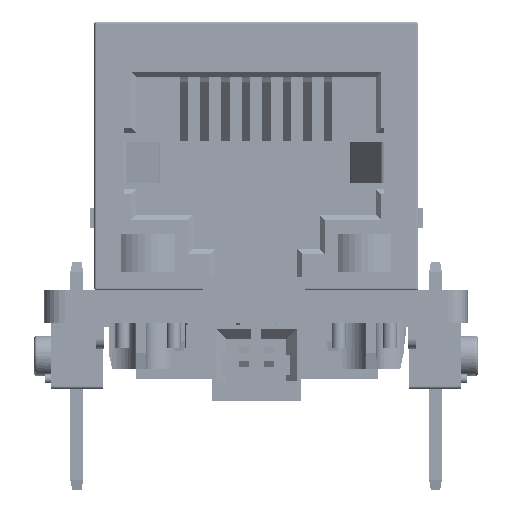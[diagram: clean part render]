
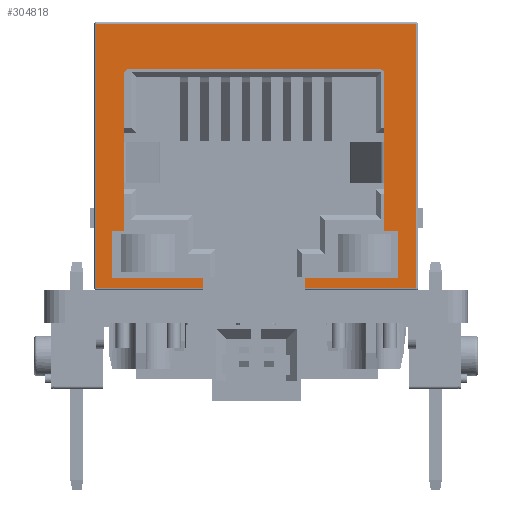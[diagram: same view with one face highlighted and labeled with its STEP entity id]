
A CAD part, front view. The second image highlights one B-rep face of the part: STEP entity #304818.
In plain terms, the highlighted planar face has unit normal (0, -1, 0) as drawn and (0, 0, 1) by its records, which use the part's own axes.
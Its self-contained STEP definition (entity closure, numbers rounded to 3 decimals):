
#296512=DIRECTION('',(1.,0.,0.));
#296513=VECTOR('',#296512,5.49);
#296514=CARTESIAN_POINT('',(2.43,-6.45,0.15));
#296515=LINE('',#296514,#296513);
#296665=DIRECTION('',(1.,0.,0.));
#296666=VECTOR('',#296665,5.29);
#296667=CARTESIAN_POINT('',(-7.92,-6.45,0.15));
#296668=LINE('',#296667,#296666);
#296687=DIRECTION('',(0.,-1.,0.));
#296688=VECTOR('',#296687,13.1);
#296689=CARTESIAN_POINT('',(-7.92,6.65,0.15));
#296690=LINE('',#296689,#296688);
#296694=DIRECTION('',(-1.,0.,0.));
#296695=VECTOR('',#296694,15.84);
#296696=CARTESIAN_POINT('',(7.92,6.65,0.15));
#296697=LINE('',#296696,#296695);
#296701=DIRECTION('',(0.,1.,0.));
#296702=VECTOR('',#296701,13.1);
#296703=CARTESIAN_POINT('',(7.92,-6.45,0.15));
#296704=LINE('',#296703,#296702);
#296708=DIRECTION('',(0.,-1.,0.));
#296709=VECTOR('',#296708,0.51);
#296710=CARTESIAN_POINT('',(2.43,-5.94,0.15));
#296711=LINE('',#296710,#296709);
#296715=DIRECTION('',(-1.,0.,0.));
#296716=VECTOR('',#296715,4.62);
#296717=CARTESIAN_POINT('',(7.05,-5.94,0.15));
#296718=LINE('',#296717,#296716);
#296722=DIRECTION('',(0.,-1.,0.));
#296723=VECTOR('',#296722,2.35);
#296724=CARTESIAN_POINT('',(7.05,-3.59,0.15));
#296725=LINE('',#296724,#296723);
#296729=DIRECTION('',(1.,0.,0.));
#296730=VECTOR('',#296729,0.7);
#296731=CARTESIAN_POINT('',(6.35,-3.59,0.15));
#296732=LINE('',#296731,#296730);
#296736=CARTESIAN_POINT('',(6.1,4.17,0.15));
#296737=DIRECTION('',(0.,0.,-1.));
#296738=DIRECTION('',(0.,1.,0.));
#296739=AXIS2_PLACEMENT_3D('',#296736,#296737,#296738);
#296744=DIRECTION('',(1.,0.,0.));
#296745=VECTOR('',#296744,12.4);
#296746=CARTESIAN_POINT('',(-6.3,4.42,0.15));
#296747=LINE('',#296746,#296745);
#296751=CARTESIAN_POINT('',(-6.3,4.17,0.15));
#296752=DIRECTION('',(0.,0.,-1.));
#296753=DIRECTION('',(-1.,0.,0.));
#296754=AXIS2_PLACEMENT_3D('',#296751,#296752,#296753);
#296759=DIRECTION('',(0.,1.,0.));
#296760=VECTOR('',#296759,3.38);
#296761=CARTESIAN_POINT('',(-6.55,0.79,0.15));
#296762=LINE('',#296761,#296760);
#296766=DIRECTION('',(-1.,0.,0.));
#296767=VECTOR('',#296766,0.009);
#296768=CARTESIAN_POINT('',(-6.541,0.79,0.15));
#296769=LINE('',#296768,#296767);
#296773=DIRECTION('',(0.,1.,0.));
#296774=VECTOR('',#296773,2.);
#296775=CARTESIAN_POINT('',(-6.541,-1.21,0.15));
#296776=LINE('',#296775,#296774);
#296780=DIRECTION('',(1.,0.,0.));
#296781=VECTOR('',#296780,0.009);
#296782=CARTESIAN_POINT('',(-6.55,-1.21,0.15));
#296783=LINE('',#296782,#296781);
#296787=DIRECTION('',(0.,1.,0.));
#296788=VECTOR('',#296787,2.38);
#296789=CARTESIAN_POINT('',(-6.55,-3.59,0.15));
#296790=LINE('',#296789,#296788);
#296794=DIRECTION('',(1.,0.,0.));
#296795=VECTOR('',#296794,0.6);
#296796=CARTESIAN_POINT('',(-7.15,-3.59,0.15));
#296797=LINE('',#296796,#296795);
#296801=DIRECTION('',(0.,1.,0.));
#296802=VECTOR('',#296801,2.35);
#296803=CARTESIAN_POINT('',(-7.15,-5.94,0.15));
#296804=LINE('',#296803,#296802);
#296808=DIRECTION('',(-1.,0.,0.));
#296809=VECTOR('',#296808,4.52);
#296810=CARTESIAN_POINT('',(-2.63,-5.94,0.15));
#296811=LINE('',#296810,#296809);
#296815=DIRECTION('',(0.,1.,0.));
#296816=VECTOR('',#296815,0.51);
#296817=CARTESIAN_POINT('',(-2.63,-6.45,0.15));
#296818=LINE('',#296817,#296816);
#297746=DIRECTION('',(0.,-1.,0.));
#297747=VECTOR('',#297746,7.76);
#297748=CARTESIAN_POINT('',(6.35,4.17,0.15));
#297749=LINE('',#297748,#297747);
#301675=CARTESIAN_POINT('',(-2.63,-5.94,0.15));
#301676=CARTESIAN_POINT('',(-7.15,-5.94,0.15));
#301677=VERTEX_POINT('',#301675);
#301678=VERTEX_POINT('',#301676);
#301679=CARTESIAN_POINT('',(-7.15,-3.59,0.15));
#301680=VERTEX_POINT('',#301679);
#301681=CARTESIAN_POINT('',(-6.55,-3.59,0.15));
#301682=VERTEX_POINT('',#301681);
#301683=CARTESIAN_POINT('',(-6.55,-1.21,0.15));
#301684=VERTEX_POINT('',#301683);
#301685=CARTESIAN_POINT('',(-6.55,0.79,0.15));
#301686=CARTESIAN_POINT('',(-6.55,4.17,0.15));
#301687=VERTEX_POINT('',#301685);
#301688=VERTEX_POINT('',#301686);
#301689=CARTESIAN_POINT('',(-6.3,4.42,0.15));
#301690=VERTEX_POINT('',#301689);
#301691=CARTESIAN_POINT('',(6.1,4.42,0.15));
#301692=VERTEX_POINT('',#301691);
#301693=CARTESIAN_POINT('',(6.35,4.17,0.15));
#301694=VERTEX_POINT('',#301693);
#301695=CARTESIAN_POINT('',(6.35,-3.59,0.15));
#301696=CARTESIAN_POINT('',(7.05,-3.59,0.15));
#301697=VERTEX_POINT('',#301695);
#301698=VERTEX_POINT('',#301696);
#301699=CARTESIAN_POINT('',(7.05,-5.94,0.15));
#301700=VERTEX_POINT('',#301699);
#301701=CARTESIAN_POINT('',(2.43,-5.94,0.15));
#301702=VERTEX_POINT('',#301701);
#301851=CARTESIAN_POINT('',(-6.541,0.79,0.15));
#301853=VERTEX_POINT('',#301851);
#301857=CARTESIAN_POINT('',(-6.541,-1.21,0.15));
#301858=VERTEX_POINT('',#301857);
#301927=CARTESIAN_POINT('',(-7.92,6.65,0.15));
#301928=CARTESIAN_POINT('',(-7.92,-6.45,0.15));
#301929=VERTEX_POINT('',#301927);
#301930=VERTEX_POINT('',#301928);
#301935=CARTESIAN_POINT('',(7.92,6.65,0.15));
#301936=VERTEX_POINT('',#301935);
#301941=CARTESIAN_POINT('',(7.92,-6.45,0.15));
#301942=VERTEX_POINT('',#301941);
#301979=CARTESIAN_POINT('',(-2.63,-6.45,0.15));
#301981=VERTEX_POINT('',#301979);
#301984=CARTESIAN_POINT('',(2.43,-6.45,0.15));
#301986=VERTEX_POINT('',#301984);
#304771=CARTESIAN_POINT('',(0.,0.,0.15));
#304772=DIRECTION('',(0.,0.,1.));
#304773=DIRECTION('',(1.,0.,0.));
#304774=AXIS2_PLACEMENT_3D('',#304771,#304772,#304773);
#304775=PLANE('',#304774);
#304776=ORIENTED_EDGE('',*,*,#304762,.F.);
#304778=ORIENTED_EDGE('',*,*,#304777,.F.);
#304780=ORIENTED_EDGE('',*,*,#304779,.F.);
#304782=ORIENTED_EDGE('',*,*,#304781,.F.);
#304783=ORIENTED_EDGE('',*,*,#304535,.F.);
#304784=ORIENTED_EDGE('',*,*,#304552,.F.);
#304786=ORIENTED_EDGE('',*,*,#304785,.F.);
#304788=ORIENTED_EDGE('',*,*,#304787,.F.);
#304790=ORIENTED_EDGE('',*,*,#304789,.F.);
#304792=ORIENTED_EDGE('',*,*,#304791,.F.);
#304794=ORIENTED_EDGE('',*,*,#304793,.F.);
#304796=ORIENTED_EDGE('',*,*,#304795,.F.);
#304798=ORIENTED_EDGE('',*,*,#304797,.F.);
#304800=ORIENTED_EDGE('',*,*,#304799,.F.);
#304802=ORIENTED_EDGE('',*,*,#304801,.F.);
#304804=ORIENTED_EDGE('',*,*,#304803,.F.);
#304806=ORIENTED_EDGE('',*,*,#304805,.F.);
#304808=ORIENTED_EDGE('',*,*,#304807,.F.);
#304810=ORIENTED_EDGE('',*,*,#304809,.F.);
#304812=ORIENTED_EDGE('',*,*,#304811,.F.);
#304814=ORIENTED_EDGE('',*,*,#304813,.F.);
#304815=ORIENTED_EDGE('',*,*,#304748,.F.);
#304816=EDGE_LOOP('',(#304776,#304778,#304780,#304782,#304783,#304784,#304786,
#304788,#304790,#304792,#304794,#304796,#304798,#304800,#304802,#304804,#304806,
#304808,#304810,#304812,#304814,#304815));
#304817=FACE_OUTER_BOUND('',#304816,.F.);
#304818=ADVANCED_FACE('',(#304817),#304775,.T.);
#296740=CIRCLE('',#296739,0.25);
#296755=CIRCLE('',#296754,0.25);
#304535=EDGE_CURVE('',#301986,#301942,#296515,.T.);
#304552=EDGE_CURVE('',#301702,#301986,#296711,.T.);
#304748=EDGE_CURVE('',#301981,#301677,#296818,.T.);
#304762=EDGE_CURVE('',#301930,#301981,#296668,.T.);
#304777=EDGE_CURVE('',#301929,#301930,#296690,.T.);
#304779=EDGE_CURVE('',#301936,#301929,#296697,.T.);
#304781=EDGE_CURVE('',#301942,#301936,#296704,.T.);
#304785=EDGE_CURVE('',#301700,#301702,#296718,.T.);
#304787=EDGE_CURVE('',#301698,#301700,#296725,.T.);
#304789=EDGE_CURVE('',#301697,#301698,#296732,.T.);
#304791=EDGE_CURVE('',#301694,#301697,#297749,.T.);
#304793=EDGE_CURVE('',#301692,#301694,#296740,.T.);
#304795=EDGE_CURVE('',#301690,#301692,#296747,.T.);
#304797=EDGE_CURVE('',#301688,#301690,#296755,.T.);
#304799=EDGE_CURVE('',#301687,#301688,#296762,.T.);
#304801=EDGE_CURVE('',#301853,#301687,#296769,.T.);
#304803=EDGE_CURVE('',#301858,#301853,#296776,.T.);
#304805=EDGE_CURVE('',#301684,#301858,#296783,.T.);
#304807=EDGE_CURVE('',#301682,#301684,#296790,.T.);
#304809=EDGE_CURVE('',#301680,#301682,#296797,.T.);
#304811=EDGE_CURVE('',#301678,#301680,#296804,.T.);
#304813=EDGE_CURVE('',#301677,#301678,#296811,.T.);
